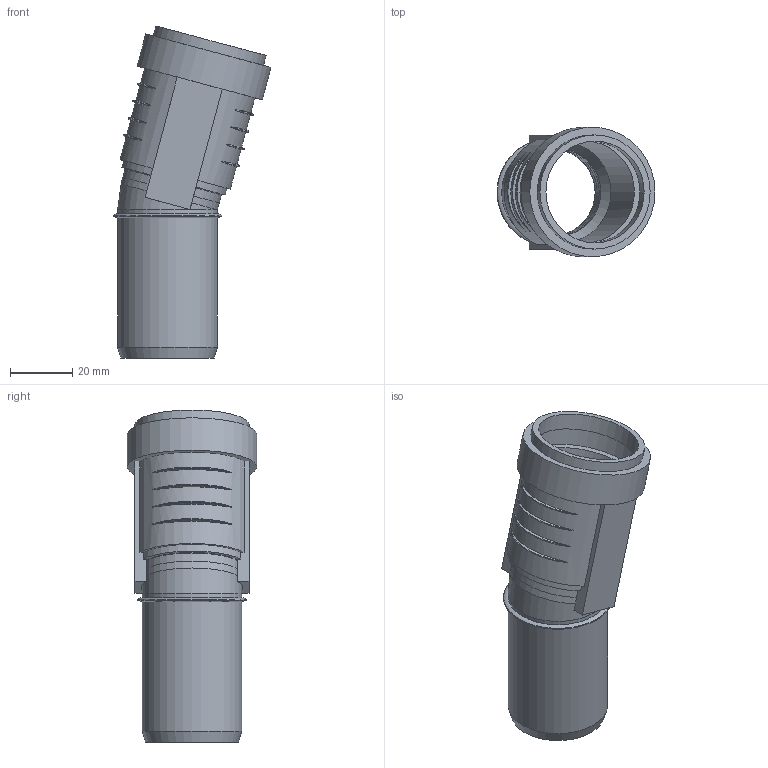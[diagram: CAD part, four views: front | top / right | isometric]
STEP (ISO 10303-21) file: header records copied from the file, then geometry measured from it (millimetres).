
FILE_DESCRIPTION(/* description */ (''),/* implementation_level */ '2;1');
FILE_NAME(/* name */ 'Z:\Geberit\Export\NewStep\390020.stp',/* time_stamp */ '2014-04-02T08:08:03+02:00',/* author */ ('ML'),/* organization */ (''),/* preprocessor_version */ 'ST-DEVELOPER v15.2',/* originating_system */ 'Autodesk Inventor 2014',/* authorisation */ '');
FILE_SCHEMA (('AUTOMOTIVE_DESIGN { 1 0 10303 214 3 1 1 }'));
Length unit declared in the file: millimetre
Products named in the file (3): 861576; 861632; 390020
Bounding box: 50.95 x 41.8 x 107.08 mm (x, y, z)
Volume: 24786 mm3; surface area: 25200.8 mm2
Topology: 2 solids, 2 shells, 68 faces, 162 edges, 109 vertices
Faces by surface type: torus 28, plane 19, cylinder 18, cone 2, bspline 1
Full cylindrical faces by diameter (mm): 28.15 x3, 32.15 x4, 32.8 x2, 36.8 x1, 37.8 x1, 41.8 x1
Entity records: 2662 total; most frequent: CARTESIAN_POINT 1086, DIRECTION 290, ORIENTED_EDGE 278, EDGE_CURVE 139, AXIS2_PLACEMENT_3D 127, VERTEX_POINT 106, EDGE_LOOP 103, STYLED_ITEM 70
